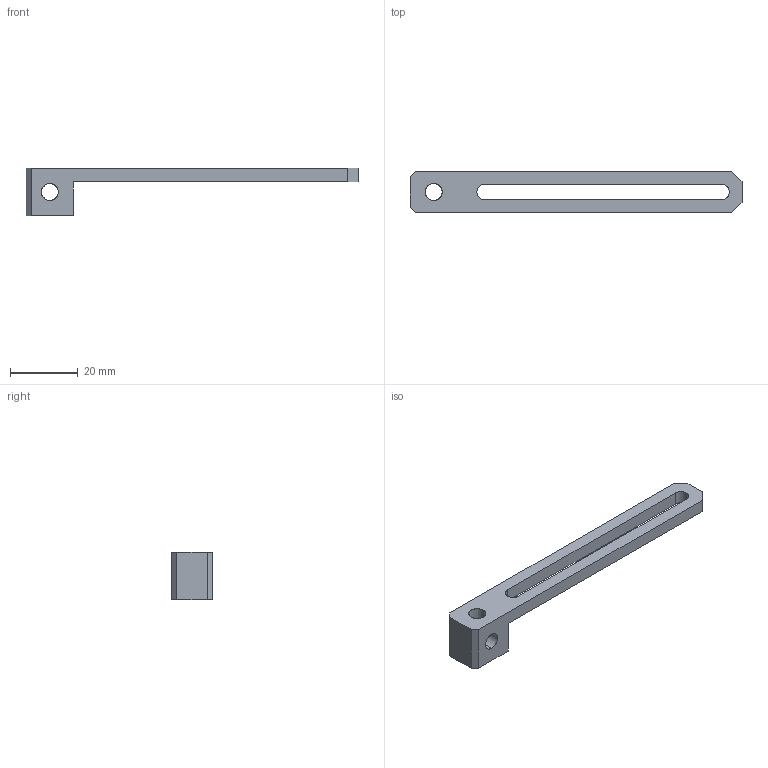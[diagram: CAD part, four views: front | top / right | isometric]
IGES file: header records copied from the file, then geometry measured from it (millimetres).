
Start section: SolidWorks IGES file using analytic representation for surfaces
Global section: file name: C:\Documents and Settings\CAD53\デスクトップ\IGES\N01863-213-1.IGS; native system: SolidWorks 2005 by SolidWorks Corporation; preprocessor: SolidWorks 2005 by SolidWorks Corporation; author: CAD53; date: 070530.111403; units: millimetre
Bounding box: 98 x 12 x 14 mm (x, y, z)
Surface area: 3875.4 mm2 (no closed solid volume)
Topology: 0 solids, 0 shells, 25 faces, 412 edges, 412 vertices
Faces by surface type: bspline 14, revolution 11
